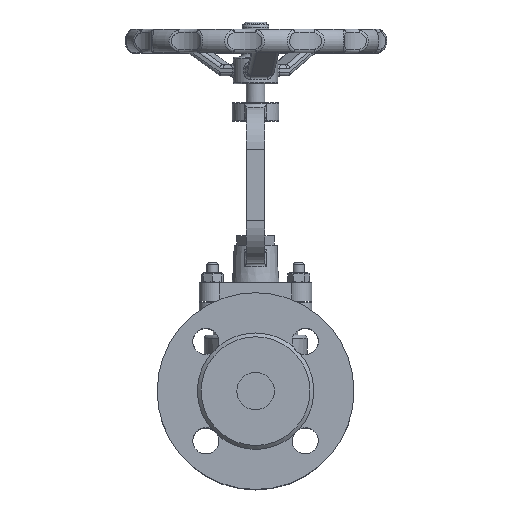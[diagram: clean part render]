
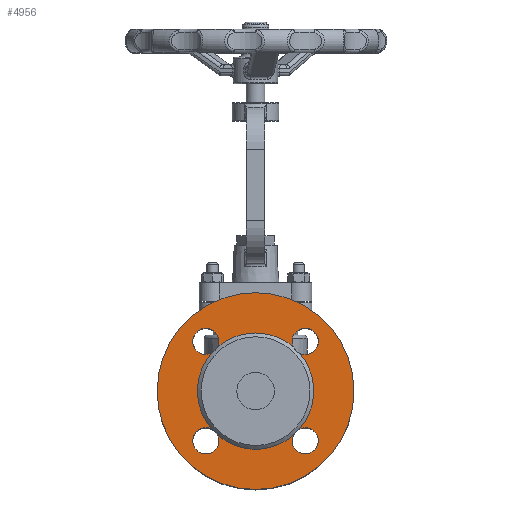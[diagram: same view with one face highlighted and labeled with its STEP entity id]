
A CAD part, top view. The second image highlights one B-rep face of the part: STEP entity #4956.
In plain terms, the highlighted planar face has unit normal (0, 0, 1).
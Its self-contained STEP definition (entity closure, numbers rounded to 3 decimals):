
#4956=ADVANCED_FACE('',(#13100,#13102),#13104,.F.);
#13100=FACE_BOUND('',#13101,.T.);
#13101=EDGE_LOOP('',(#20748));
#13102=FACE_BOUND('',#13103,.T.);
#13103=EDGE_LOOP('',(#20749,#20750,#20751,#20752,#20753,#20754,#20755,#20756,#20757,
#20758,#20759,#20760,#20761));
#13104=PLANE('',#13105);
#13105=AXIS2_PLACEMENT_3D('',#13106,#13107,#13108);
#13106=CARTESIAN_POINT('',(0.,0.,73.));
#13107=DIRECTION('',(0.,0.,-1.));
#13108=DIRECTION('',(0.,1.,0.));
#20748=ORIENTED_EDGE('',*,*,#23752,.T.);
#20749=ORIENTED_EDGE('',*,*,#23755,.T.);
#20750=ORIENTED_EDGE('',*,*,#23905,.F.);
#20751=ORIENTED_EDGE('',*,*,#23762,.T.);
#20752=ORIENTED_EDGE('',*,*,#23764,.T.);
#20753=ORIENTED_EDGE('',*,*,#23906,.F.);
#20754=ORIENTED_EDGE('',*,*,#23757,.T.);
#20755=ORIENTED_EDGE('',*,*,#23756,.T.);
#20756=ORIENTED_EDGE('',*,*,#23907,.F.);
#20757=ORIENTED_EDGE('',*,*,#23908,.F.);
#20758=ORIENTED_EDGE('',*,*,#23760,.T.);
#20759=ORIENTED_EDGE('',*,*,#23759,.T.);
#20760=ORIENTED_EDGE('',*,*,#23909,.F.);
#20761=ORIENTED_EDGE('',*,*,#23753,.T.);
#23752=EDGE_CURVE('',#26944,#26944,#26945,.T.);
#23753=EDGE_CURVE('',#26946,#26947,#26948,.T.);
#23755=EDGE_CURVE('',#26947,#26949,#26951,.T.);
#23756=EDGE_CURVE('',#26952,#26953,#26954,.T.);
#23757=EDGE_CURVE('',#26955,#26952,#26956,.T.);
#23759=EDGE_CURVE('',#26958,#26959,#26960,.T.);
#23760=EDGE_CURVE('',#26961,#26958,#26962,.T.);
#23762=EDGE_CURVE('',#26964,#26965,#26966,.T.);
#23764=EDGE_CURVE('',#26965,#26967,#26969,.T.);
#23905=EDGE_CURVE('',#26964,#26949,#27200,.T.);
#23906=EDGE_CURVE('',#26955,#26967,#27201,.T.);
#23907=EDGE_CURVE('',#27202,#26953,#27203,.T.);
#23908=EDGE_CURVE('',#26961,#27202,#27204,.T.);
#23909=EDGE_CURVE('',#26946,#26959,#27205,.T.);
#26944=VERTEX_POINT('',#51724);
#26945=CIRCLE('',#51725,52.5);
#26946=VERTEX_POINT('',#51729);
#26947=VERTEX_POINT('',#51730);
#26948=CIRCLE('',#51731,7.);
#26949=VERTEX_POINT('',#51735);
#26951=CIRCLE('',#51812,7.);
#26952=VERTEX_POINT('',#51816);
#26953=VERTEX_POINT('',#51817);
#26954=CIRCLE('',#51818,7.);
#26955=VERTEX_POINT('',#51822);
#26956=CIRCLE('',#51823,7.);
#26958=VERTEX_POINT('',#51903);
#26959=VERTEX_POINT('',#51904);
#26960=CIRCLE('',#51905,7.);
#26961=VERTEX_POINT('',#51909);
#26962=CIRCLE('',#51910,7.);
#26964=VERTEX_POINT('',#51990);
#26965=VERTEX_POINT('',#51991);
#26966=CIRCLE('',#51992,7.);
#26967=VERTEX_POINT('',#51996);
#26969=CIRCLE('',#52073,7.);
#27200=CIRCLE('',#53189,31.);
#27201=CIRCLE('',#53193,31.);
#27202=VERTEX_POINT('',#53197);
#27203=CIRCLE('',#53198,31.);
#27204=CIRCLE('',#53202,31.);
#27205=CIRCLE('',#53206,31.);
#51724=CARTESIAN_POINT('',(0.,52.5,73.));
#51725=AXIS2_PLACEMENT_3D('',#51726,#51727,#51728);
#51726=CARTESIAN_POINT('',(0.,0.,73.));
#51727=DIRECTION('',(0.,0.,1.));
#51728=DIRECTION('',(0.,1.,0.));
#51729=CARTESIAN_POINT('',(23.526,-20.188,73.));
#51730=CARTESIAN_POINT('',(26.517,-19.517,73.));
#51731=AXIS2_PLACEMENT_3D('',#51732,#51733,#51734);
#51732=CARTESIAN_POINT('',(26.517,-26.517,73.));
#51733=DIRECTION('',(0.,0.,-1.));
#51734=DIRECTION('',(-0.427,0.904,0.));
#51735=CARTESIAN_POINT('',(20.188,-23.526,73.));
#51812=AXIS2_PLACEMENT_3D('',#51813,#51814,#51815);
#51813=CARTESIAN_POINT('',(26.517,-26.517,73.));
#51814=DIRECTION('',(0.,0.,-1.));
#51815=DIRECTION('',(0.,1.,0.));
#51816=CARTESIAN_POINT('',(-26.517,19.517,73.));
#51817=CARTESIAN_POINT('',(-20.188,23.526,73.));
#51818=AXIS2_PLACEMENT_3D('',#51819,#51820,#51821);
#51819=CARTESIAN_POINT('',(-26.517,26.517,73.));
#51820=DIRECTION('',(0.,0.,-1.));
#51821=DIRECTION('',(0.,-1.,0.));
#51822=CARTESIAN_POINT('',(-23.526,20.188,73.));
#51823=AXIS2_PLACEMENT_3D('',#51824,#51825,#51826);
#51824=CARTESIAN_POINT('',(-26.517,26.517,73.));
#51825=DIRECTION('',(0.,0.,-1.));
#51826=DIRECTION('',(0.427,-0.904,0.));
#51903=CARTESIAN_POINT('',(19.517,26.517,73.));
#51904=CARTESIAN_POINT('',(23.526,20.188,73.));
#51905=AXIS2_PLACEMENT_3D('',#51906,#51907,#51908);
#51906=CARTESIAN_POINT('',(26.517,26.517,73.));
#51907=DIRECTION('',(0.,0.,-1.));
#51908=DIRECTION('',(-1.,0.,0.));
#51909=CARTESIAN_POINT('',(20.188,23.526,73.));
#51910=AXIS2_PLACEMENT_3D('',#51911,#51912,#51913);
#51911=CARTESIAN_POINT('',(26.517,26.517,73.));
#51912=DIRECTION('',(0.,0.,-1.));
#51913=DIRECTION('',(-0.904,-0.427,0.));
#51990=CARTESIAN_POINT('',(-20.188,-23.526,73.));
#51991=CARTESIAN_POINT('',(-19.517,-26.517,73.));
#51992=AXIS2_PLACEMENT_3D('',#51993,#51994,#51995);
#51993=CARTESIAN_POINT('',(-26.517,-26.517,73.));
#51994=DIRECTION('',(0.,0.,-1.));
#51995=DIRECTION('',(0.904,0.427,0.));
#51996=CARTESIAN_POINT('',(-23.526,-20.188,73.));
#52073=AXIS2_PLACEMENT_3D('',#52074,#52075,#52076);
#52074=CARTESIAN_POINT('',(-26.517,-26.517,73.));
#52075=DIRECTION('',(0.,0.,-1.));
#52076=DIRECTION('',(1.,0.,0.));
#53189=AXIS2_PLACEMENT_3D('',#53190,#53191,#53192);
#53190=CARTESIAN_POINT('',(0.,0.,73.));
#53191=DIRECTION('',(0.,0.,1.));
#53192=DIRECTION('',(-0.651,-0.759,0.));
#53193=AXIS2_PLACEMENT_3D('',#53194,#53195,#53196);
#53194=CARTESIAN_POINT('',(0.,0.,73.));
#53195=DIRECTION('',(0.,0.,1.));
#53196=DIRECTION('',(-0.759,0.651,0.));
#53197=CARTESIAN_POINT('',(0.,31.,73.));
#53198=AXIS2_PLACEMENT_3D('',#53199,#53200,#53201);
#53199=CARTESIAN_POINT('',(0.,0.,73.));
#53200=DIRECTION('',(0.,0.,1.));
#53201=DIRECTION('',(0.,1.,0.));
#53202=AXIS2_PLACEMENT_3D('',#53203,#53204,#53205);
#53203=CARTESIAN_POINT('',(0.,0.,73.));
#53204=DIRECTION('',(0.,0.,1.));
#53205=DIRECTION('',(0.651,0.759,0.));
#53206=AXIS2_PLACEMENT_3D('',#53207,#53208,#53209);
#53207=CARTESIAN_POINT('',(0.,0.,73.));
#53208=DIRECTION('',(0.,0.,1.));
#53209=DIRECTION('',(0.759,-0.651,0.));
